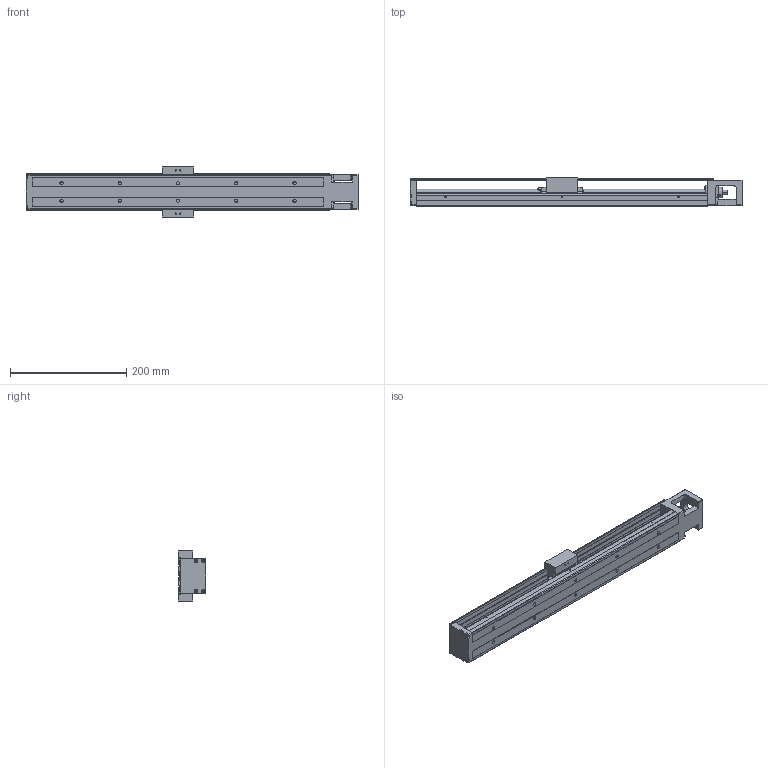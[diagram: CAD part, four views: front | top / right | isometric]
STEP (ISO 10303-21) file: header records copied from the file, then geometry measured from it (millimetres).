
FILE_DESCRIPTION (( 'STEP AP203' ), '1' );
FILE_NAME ('HKK60D10C-500A1-F0C.stp', '2021-11-25T07:16:16', ( '' ), ( '' ), 'SwSTEP 2.0', 'SolidWorks 2018', '' );
FILE_SCHEMA (( 'CONFIG_CONTROL_DESIGN' ));
Length unit declared in the file: millimetre
Products named in the file (1): HKK60D10C-500A1-F0C
Bounding box: 570 x 48 x 86 mm (x, y, z)
Volume: 695564.4 mm3; surface area: 244631.6 mm2
Topology: 2 solids, 10 shells, 831 faces, 2237 edges, 1435 vertices
Faces by surface type: plane 525, cylinder 242, cone 54, torus 8, bspline 2
Entity records: 26303 total; most frequent: CARTESIAN_POINT 5367, ORIENTED_EDGE 4366, DIRECTION 4267, EDGE_CURVE 2183, VECTOR 1543, LINE 1543, VERTEX_POINT 1435, AXIS2_PLACEMENT_3D 1362
